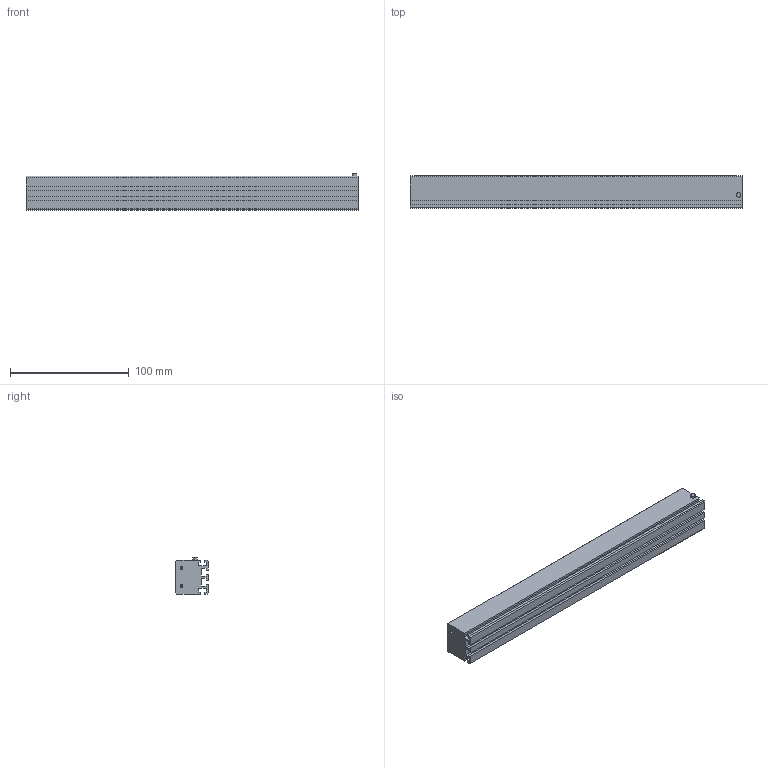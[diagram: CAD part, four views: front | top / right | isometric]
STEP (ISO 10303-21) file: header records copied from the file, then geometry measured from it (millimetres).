
FILE_DESCRIPTION (( 'STEP AP203' ), '1' );
FILE_NAME ('LRD-B4-280.STEP', '2022-08-22T06:40:44', ( 'TNT' ), ( '' ), 'SwSTEP 2.0', 'SolidWorks 2018', '' );
FILE_SCHEMA (( 'CONFIG_CONTROL_DESIGN' ));
Length unit declared in the file: millimetre
Products named in the file (1): LRD-B4-280
Bounding box: 280 x 27.7 x 30.6 mm (x, y, z)
Volume: 183536 mm3; surface area: 51780.3 mm2
Topology: 1 solids, 1 shells, 66 faces, 178 edges, 112 vertices
Faces by surface type: plane 48, cylinder 10, cone 8
Entity records: 2059 total; most frequent: CARTESIAN_POINT 349, ORIENTED_EDGE 340, DIRECTION 324, EDGE_CURVE 170, LINE 150, VECTOR 150, VERTEX_POINT 112, AXIS2_PLACEMENT_3D 87
